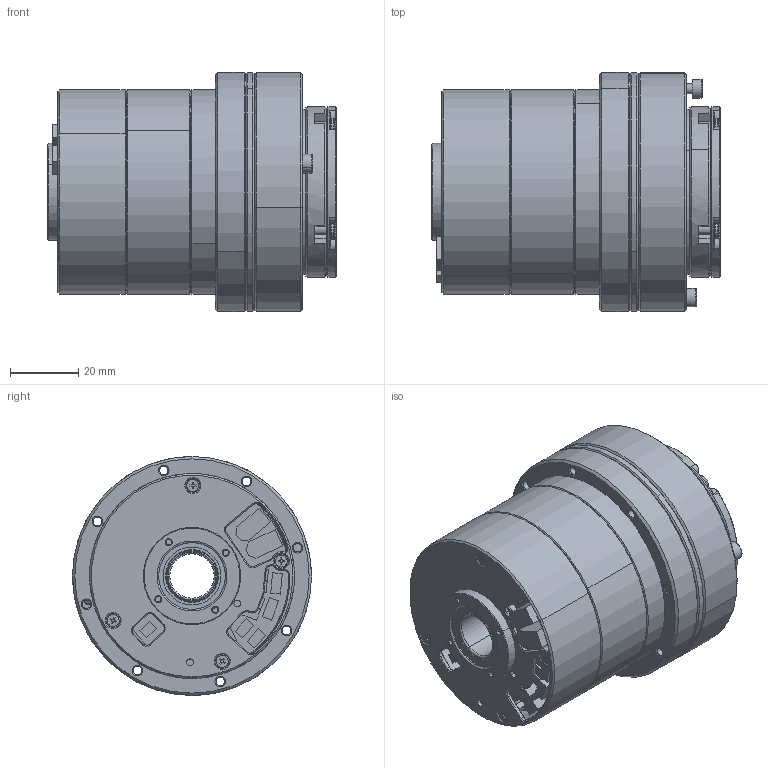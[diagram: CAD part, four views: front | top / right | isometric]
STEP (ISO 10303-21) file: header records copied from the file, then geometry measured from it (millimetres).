
FILE_DESCRIPTION (( 'STEP AP203' ), '1' );
FILE_NAME ('CRA-RI50-70-PRO-XX-B-2E-EC.STEP', '2024-08-26T07:05:44', ( '' ), ( '' ), 'SwSTEP 2.0', 'SolidWorks 2021', '' );
FILE_SCHEMA (( 'CONFIG_CONTROL_DESIGN' ));
Length unit declared in the file: millimetre
Products named in the file (1): CRA-RI50-70-PRO-XX-B-2E-EC
Bounding box: 84.6 x 70 x 70 mm (x, y, z)
Surface area: 46563.2 mm2 (no closed solid volume)
Topology: 0 solids, 64 shells, 659 faces, 2210 edges, 1593 vertices
Faces by surface type: plane 249, cylinder 213, cone 169, torus 28
Entity records: 25812 total; most frequent: CARTESIAN_POINT 6272, DIRECTION 4268, ORIENTED_EDGE 3480, EDGE_CURVE 2206, VERTEX_POINT 1593, AXIS2_PLACEMENT_3D 1534, VECTOR 1200, LINE 1200
